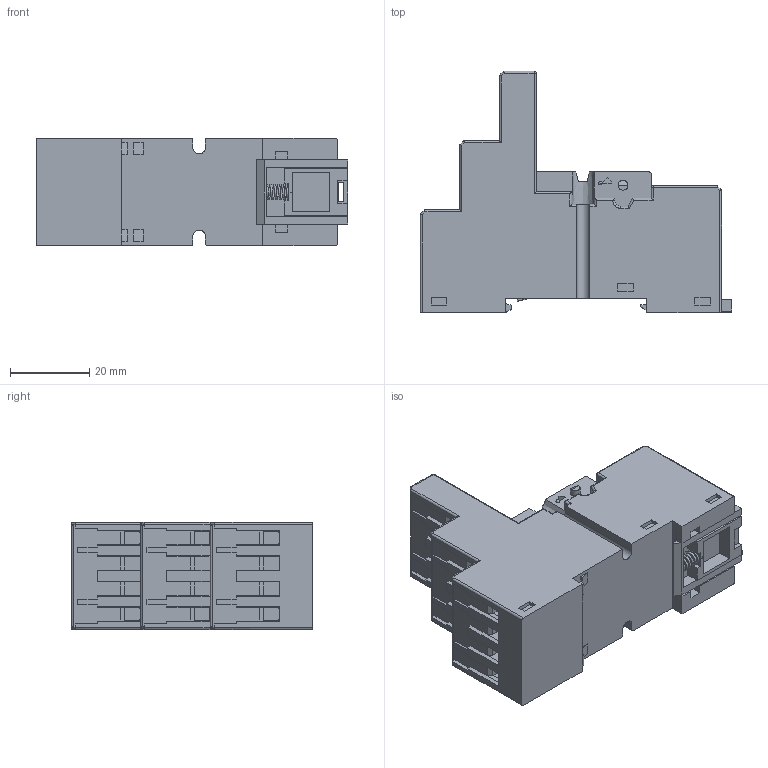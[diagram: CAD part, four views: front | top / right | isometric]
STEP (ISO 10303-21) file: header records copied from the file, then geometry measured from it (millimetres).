
FILE_DESCRIPTION(('STEP AP214'),'2;1');
FILE_NAME('9402_catalogo.stp','2010-09-07T17:27:48',(''),(''),'2007.1.106','THINKDESIGN','');
FILE_SCHEMA(('AUTOMOTIVE_DESIGN'));
Products named in the file (1): None
Bounding box: 78.6 x 60.9 x 27 mm (x, y, z)
Surface area: 22404.8 mm2 (no closed solid volume)
Topology: 0 solids, 0 shells, 811 faces, 4368 edges, 4362 vertices
Faces by surface type: plane 648, cylinder 112, bspline 51
Full cylindrical faces by diameter (mm): 0.9 x1, 2.5 x1, 3 x1, 4.7 x8, 5 x14
Entity records: 45113 total; most frequent: CARTESIAN_POINT 12641, DIRECTION 5646, COMPOSITE_CURVE_SEGMENT 4362, TRIMMED_CURVE 3921, VECTOR 3716, LINE 3716, AXIS2_PLACEMENT_3D 965, OUTER_BOUNDARY_CURVE 811
